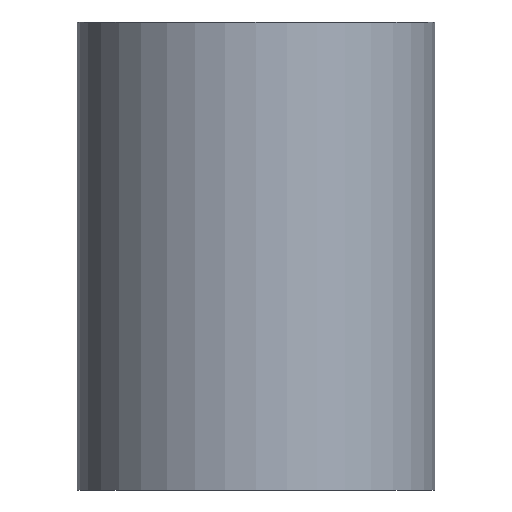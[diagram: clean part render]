
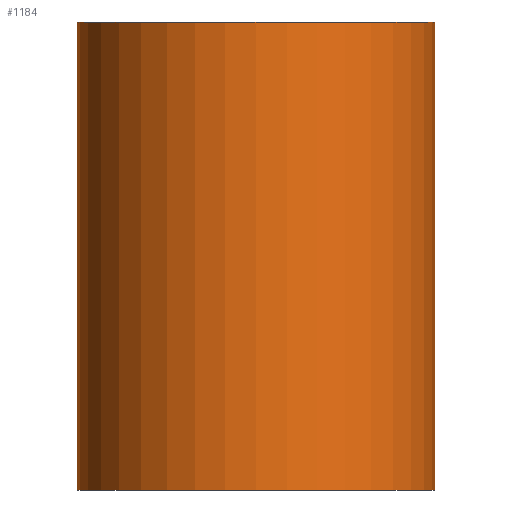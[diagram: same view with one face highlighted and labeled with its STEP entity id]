
A CAD part, front view. The second image highlights one B-rep face of the part: STEP entity #1184.
In plain terms, the highlighted cylindrical face has radius 12.7 mm (diameter 25.4 mm), a partial arc.
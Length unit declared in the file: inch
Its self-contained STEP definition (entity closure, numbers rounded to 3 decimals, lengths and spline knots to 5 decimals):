
#20 = LINE ( 'NONE', #1255, #252 ) ;
#28 = CARTESIAN_POINT ( 'NONE',  ( 0., 0., -0.75 ) ) ;
#49 = DIRECTION ( 'NONE',  ( 0., 0., -1. ) ) ;
#85 = VECTOR ( 'NONE', #173, 39.37008 ) ;
#99 = FACE_OUTER_BOUND ( 'NONE', #1075, .T. ) ;
#110 = CARTESIAN_POINT ( 'NONE',  ( 0.5, 0., 0.56 ) ) ;
#173 = DIRECTION ( 'NONE',  ( 0., 0., -1. ) ) ;
#179 = DIRECTION ( 'NONE',  ( 0., 0., -1. ) ) ;
#188 = CIRCLE ( 'NONE', #847, 0.5 ) ;
#206 = VERTEX_POINT ( 'NONE', #735 ) ;
#227 = AXIS2_PLACEMENT_3D ( 'NONE', #740, #433, #345 ) ;
#252 = VECTOR ( 'NONE', #179, 39.37008 ) ;
#287 = EDGE_CURVE ( 'NONE', #206, #311, #20, .T. ) ;
#311 = VERTEX_POINT ( 'NONE', #1244 ) ;
#323 = DIRECTION ( 'NONE',  ( 0., 0., 1. ) ) ;
#345 = DIRECTION ( 'NONE',  ( -1., 0., 0. ) ) ;
#384 = VERTEX_POINT ( 'NONE', #110 ) ;
#433 = DIRECTION ( 'NONE',  ( 0., 0., -1. ) ) ;
#487 = VERTEX_POINT ( 'NONE', #1199 ) ;
#519 = DIRECTION ( 'NONE',  ( 1., 0., 0. ) ) ;
#541 = LINE ( 'NONE', #1131, #85 ) ;
#558 = CIRCLE ( 'NONE', #869, 0.5 ) ;
#580 = ORIENTED_EDGE ( 'NONE', *, *, #722, .F. ) ;
#689 = EDGE_CURVE ( 'NONE', #384, #206, #188, .T. ) ;
#722 = EDGE_CURVE ( 'NONE', #384, #487, #541, .T. ) ;
#735 = CARTESIAN_POINT ( 'NONE',  ( -0.5, 0., 0.56 ) ) ;
#740 = CARTESIAN_POINT ( 'NONE',  ( 0., 0., 0.75 ) ) ;
#741 = DIRECTION ( 'NONE',  ( 0., 1., 0. ) ) ;
#847 = AXIS2_PLACEMENT_3D ( 'NONE', #935, #49, #741 ) ;
#869 = AXIS2_PLACEMENT_3D ( 'NONE', #28, #323, #519 ) ;
#890 = ORIENTED_EDGE ( 'NONE', *, *, #689, .T. ) ;
#935 = CARTESIAN_POINT ( 'NONE',  ( 0., 0., 0.56 ) ) ;
#1075 = EDGE_LOOP ( 'NONE', ( #580, #890, #1179, #1164 ) ) ;
#1080 = EDGE_CURVE ( 'NONE', #311, #487, #558, .T. ) ;
#1126 = CYLINDRICAL_SURFACE ( 'NONE', #227, 0.5 ) ;
#1131 = CARTESIAN_POINT ( 'NONE',  ( 0.5, 0., 0.75 ) ) ;
#1164 = ORIENTED_EDGE ( 'NONE', *, *, #1080, .T. ) ;
#1179 = ORIENTED_EDGE ( 'NONE', *, *, #287, .T. ) ;
#1184 = ADVANCED_FACE ( 'NONE', ( #99 ), #1126, .T. ) ;
#1199 = CARTESIAN_POINT ( 'NONE',  ( 0.5, 0., -0.75 ) ) ;
#1244 = CARTESIAN_POINT ( 'NONE',  ( -0.5, 0., -0.75 ) ) ;
#1255 = CARTESIAN_POINT ( 'NONE',  ( -0.5, 0., 0.75 ) ) ;
